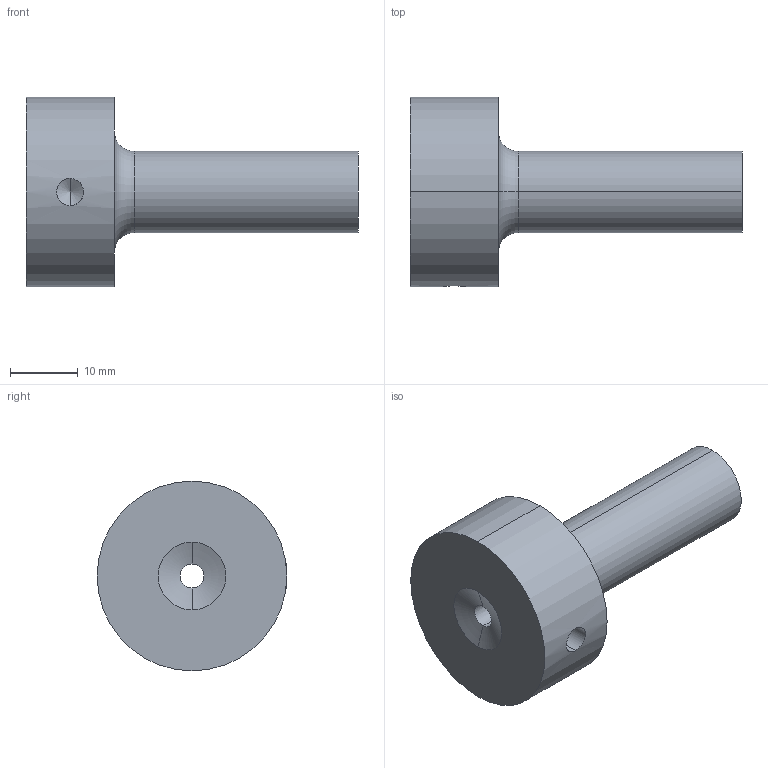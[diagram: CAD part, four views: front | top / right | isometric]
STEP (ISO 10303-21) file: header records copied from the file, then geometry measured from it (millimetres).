
FILE_DESCRIPTION (( 'STEP AP214' ), '1' );
FILE_NAME ('BR511 12X36X3,5X40.STEP', '2019-12-11T08:17:58', ( 'August' ), ( '' ), 'SwSTEP 2.0', 'SolidWorks 2018', '' );
FILE_SCHEMA (( 'AUTOMOTIVE_DESIGN' ));
Length unit declared in the file: millimetre
Products named in the file (1): BR511 12X36X3,5X40
Bounding box: 49 x 28 x 28 mm (x, y, z)
Volume: 11304.8 mm3; surface area: 4395.4 mm2
Topology: 1 solids, 1 shells, 17 faces, 36 edges, 21 vertices
Faces by surface type: cylinder 6, cone 4, torus 4, plane 3
Entity records: 538 total; most frequent: CARTESIAN_POINT 127, DIRECTION 90, ORIENTED_EDGE 68, AXIS2_PLACEMENT_3D 40, EDGE_CURVE 34, CIRCLE 22, VERTEX_POINT 21, EDGE_LOOP 21
